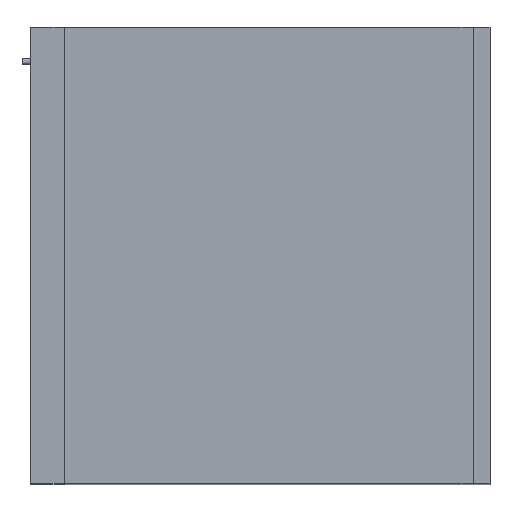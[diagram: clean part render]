
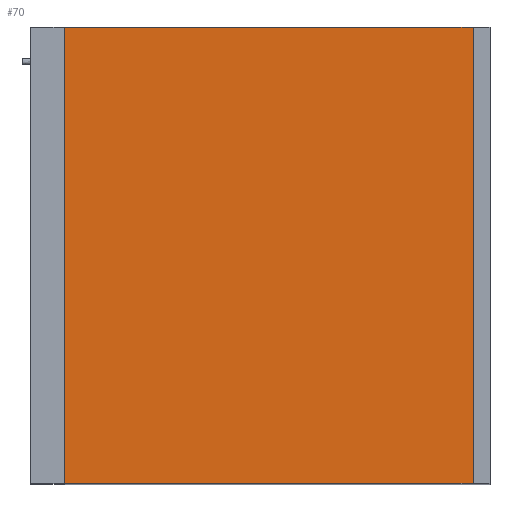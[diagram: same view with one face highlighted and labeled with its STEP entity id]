
A CAD part, top view. The second image highlights one B-rep face of the part: STEP entity #70.
In plain terms, the highlighted free-form (B-spline) face has degree [1, 1] with [2, 2] control points.
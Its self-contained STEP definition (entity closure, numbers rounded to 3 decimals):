
#70=ADVANCED_FACE('',(#94),#310,.T.);
#94=FACE_OUTER_BOUND('',#118,.T.);
#118=EDGE_LOOP('',(#189,#190,#191,#192));
#189=ORIENTED_EDGE('',*,*,#249,.F.);
#190=ORIENTED_EDGE('',*,*,#248,.T.);
#191=ORIENTED_EDGE('',*,*,#241,.T.);
#192=ORIENTED_EDGE('',*,*,#245,.F.);
#241=EDGE_CURVE('',#280,#279,#341,.T.);
#245=EDGE_CURVE('',#282,#279,#345,.T.);
#248=EDGE_CURVE('',#284,#280,#348,.T.);
#249=EDGE_CURVE('',#284,#282,#349,.T.);
#279=VERTEX_POINT('',#812);
#280=VERTEX_POINT('',#813);
#282=VERTEX_POINT('',#815);
#284=VERTEX_POINT('',#817);
#310=B_SPLINE_SURFACE_WITH_KNOTS('',1,1,((#806,#807),(#808,#809)),.UNSPECIFIED.,
.F.,.F.,.F.,(2,2),(2,2),(0.,1.),(0.,1.),.UNSPECIFIED.);
#341=B_SPLINE_CURVE_WITH_KNOTS('',1,(#760,#761),.UNSPECIFIED.,.F.,.F.,(2,
2),(0.,1.),.UNSPECIFIED.);
#345=B_SPLINE_CURVE_WITH_KNOTS('',1,(#768,#769),.UNSPECIFIED.,.F.,.F.,(2,
2),(0.,1.),.UNSPECIFIED.);
#348=B_SPLINE_CURVE_WITH_KNOTS('',1,(#776,#777),.UNSPECIFIED.,.F.,.F.,(2,
2),(0.,1.),.UNSPECIFIED.);
#349=B_SPLINE_CURVE_WITH_KNOTS('',1,(#778,#779),.UNSPECIFIED.,.F.,.F.,(2,
2),(0.,1.),.UNSPECIFIED.);
#760=CARTESIAN_POINT('',(-20.174,270.,1218.));
#761=CARTESIAN_POINT('',(-504.174,270.,1218.));
#768=CARTESIAN_POINT('',(-504.174,-270.,1218.));
#769=CARTESIAN_POINT('',(-504.174,270.,1218.));
#776=CARTESIAN_POINT('',(-20.174,-270.,1218.));
#777=CARTESIAN_POINT('',(-20.174,270.,1218.));
#778=CARTESIAN_POINT('',(-20.174,-270.,1218.));
#779=CARTESIAN_POINT('',(-504.174,-270.,1218.));
#806=CARTESIAN_POINT('',(-20.174,-270.,1218.));
#807=CARTESIAN_POINT('',(-504.174,-270.,1218.));
#808=CARTESIAN_POINT('',(-20.174,270.,1218.));
#809=CARTESIAN_POINT('',(-504.174,270.,1218.));
#812=CARTESIAN_POINT('',(-504.174,270.,1218.));
#813=CARTESIAN_POINT('',(-20.174,270.,1218.));
#815=CARTESIAN_POINT('',(-504.174,-270.,1218.));
#817=CARTESIAN_POINT('',(-20.174,-270.,1218.));
